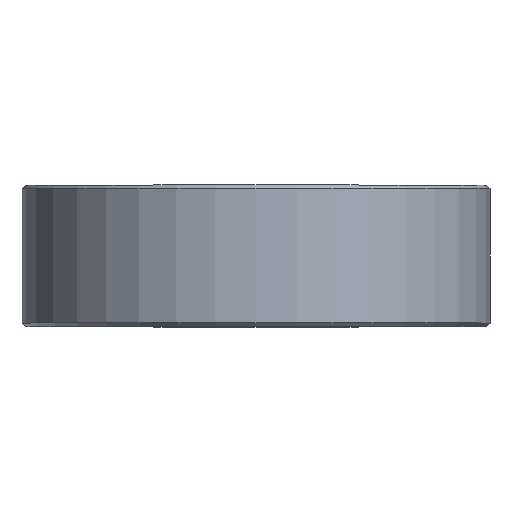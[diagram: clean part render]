
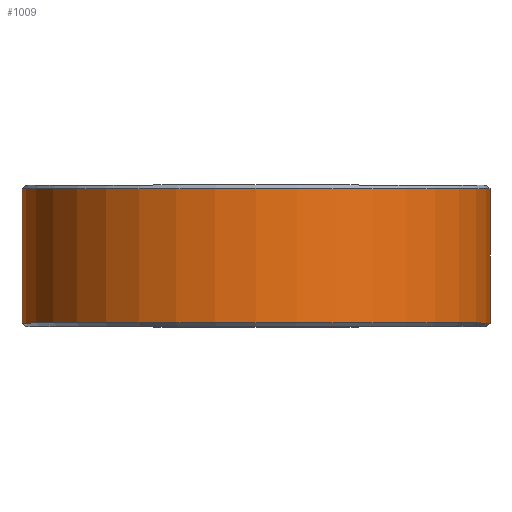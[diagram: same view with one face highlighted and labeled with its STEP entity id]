
A CAD part, top view. The second image highlights one B-rep face of the part: STEP entity #1009.
In plain terms, the highlighted cylindrical face has radius 13.25 mm (diameter 26.5 mm), a partial arc.
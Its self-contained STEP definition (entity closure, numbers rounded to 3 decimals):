
#59=DIRECTION('',(0.,-1.,0.));
#60=VECTOR('',#59,7.6);
#61=CARTESIAN_POINT('',(-13.25,7.8,0.));
#62=LINE('',#61,#60);
#167=CARTESIAN_POINT('',(0.,0.2,0.));
#168=DIRECTION('',(0.,-1.,0.));
#169=DIRECTION('',(1.,0.,0.));
#170=AXIS2_PLACEMENT_3D('',#167,#168,#169);
#172=CARTESIAN_POINT('',(0.,7.8,0.));
#173=DIRECTION('',(0.,1.,0.));
#174=DIRECTION('',(-1.,0.,0.));
#175=AXIS2_PLACEMENT_3D('',#172,#173,#174);
#177=DIRECTION('',(0.,-1.,0.));
#178=VECTOR('',#177,7.6);
#179=CARTESIAN_POINT('',(13.25,7.8,0.));
#180=LINE('',#179,#178);
#842=CARTESIAN_POINT('',(13.25,7.8,0.));
#843=VERTEX_POINT('',#842);
#844=CARTESIAN_POINT('',(-13.25,7.8,0.));
#845=VERTEX_POINT('',#844);
#846=CARTESIAN_POINT('',(13.25,0.2,0.));
#847=VERTEX_POINT('',#846);
#848=CARTESIAN_POINT('',(-13.25,0.2,0.));
#849=VERTEX_POINT('',#848);
#997=CARTESIAN_POINT('',(0.,0.,0.));
#998=DIRECTION('',(0.,1.,0.));
#999=DIRECTION('',(1.,0.,0.));
#1000=AXIS2_PLACEMENT_3D('',#997,#998,#999);
#1001=CYLINDRICAL_SURFACE('',#1000,13.25);
#1002=ORIENTED_EDGE('',*,*,#929,.T.);
#1003=ORIENTED_EDGE('',*,*,#960,.F.);
#1005=ORIENTED_EDGE('',*,*,#1004,.T.);
#1006=ORIENTED_EDGE('',*,*,#956,.T.);
#1007=EDGE_LOOP('',(#1002,#1003,#1005,#1006));
#1008=FACE_OUTER_BOUND('',#1007,.F.);
#1009=ADVANCED_FACE('',(#1008),#1001,.T.);
#171=CIRCLE('',#170,13.25);
#176=CIRCLE('',#175,13.25);
#929=EDGE_CURVE('',#847,#849,#171,.T.);
#956=EDGE_CURVE('',#843,#847,#180,.T.);
#960=EDGE_CURVE('',#845,#849,#62,.T.);
#1004=EDGE_CURVE('',#845,#843,#176,.T.);
